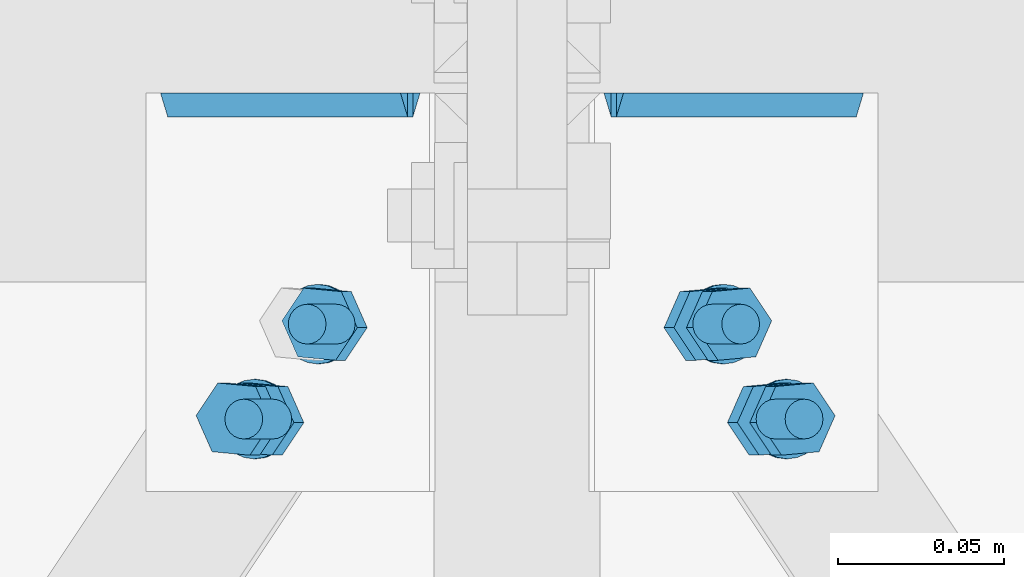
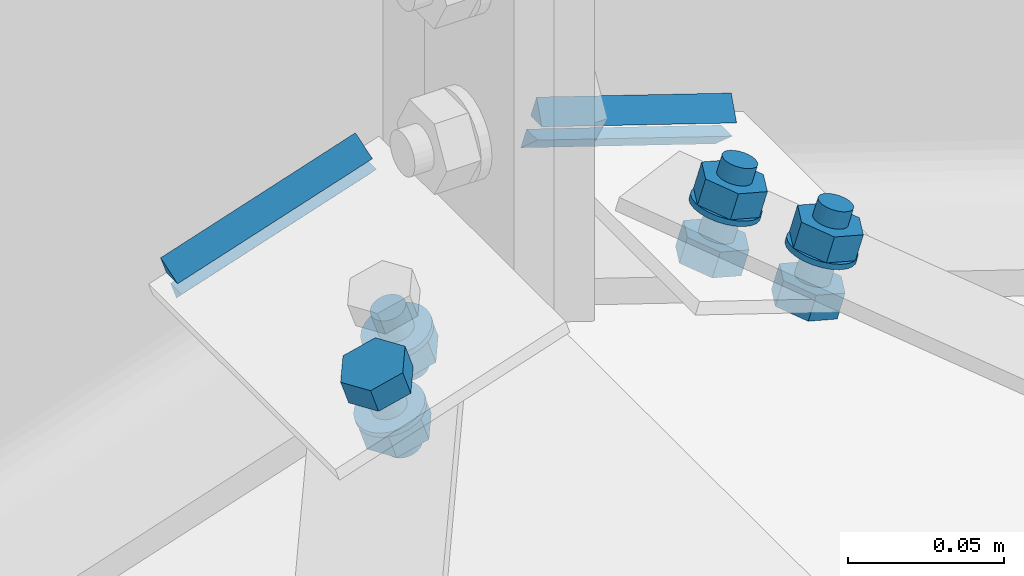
# One storey, part 43 of 53: 15 mechanical fasteners, 4 fasteners.
"""IFC4 building model written with IfcOpenShell, lengths in metres."""

import ifcopenshell
import ifcopenshell.guid

model = None  # the IFC model being written
_history = None  # IfcOwnerHistory: only IFC2X3 demands one
_inside = {}  # id of a spatial element -> (the spatial element, [elements in it])
_under = {}  # id of a project, library or spatial element -> (it, [spatial elements below it])
_declared = {}  # id of a project -> (the project, [libraries it declares])
_typed = {}  # id of a type object -> (the type object, [elements of that type])
_made_of = {}  # id of a material, layer set ... -> (it, [elements and type objects made of it])


def new_model(schema):
    """Start an empty IFC model of exactly this schema.

    Asked for "IFC4X3", IfcOpenShell would pick the latest addendum, in which some entities
    have other attributes; the version numbers below select the first issue.
    IFC2X3 requires an IfcOwnerHistory on every rooted entity: one is made here for all.
    """
    global model, _history
    if schema == "IFC4X3":
        model = ifcopenshell.file(schema_version=(4, 3, 0, 0))
    else:
        model = ifcopenshell.file(schema=schema)
    _inside.clear()
    _under.clear()
    _declared.clear()
    _typed.clear()
    _made_of.clear()
    _history = None
    if model.schema == "IFC2X3":
        org = make("IfcOrganization", Name="unknown")
        user = make(
            "IfcPersonAndOrganization",
            ThePerson=make("IfcPerson", FamilyName="unknown"),
            TheOrganization=org,
        )
        app = make(
            "IfcApplication",
            ApplicationDeveloper=org,
            Version="unknown",
            ApplicationFullName="unknown",
            ApplicationIdentifier="unknown",
        )
        _history = make(
            "IfcOwnerHistory",
            OwningUser=user,
            OwningApplication=app,
            ChangeAction="ADDED",
            CreationDate=0,
        )
    return model


def make(cls, **values):
    """One entity of the class cls with the attributes given. An attribute that is None is left unset."""
    return model.create_entity(
        cls, **{name: value for name, value in values.items() if value is not None}
    )


def rooted(cls, **values):
    """An entity with a GlobalId (a new one), such as an element, a storey or a relation."""
    return make(cls, GlobalId=ifcopenshell.guid.new(), OwnerHistory=_history, **values)


def si_unit(unit_type, name, prefix=None):
    """IfcSIUnit, for example si_unit("LENGTHUNIT", "METRE", prefix="MILLI")."""
    return make("IfcSIUnit", UnitType=unit_type, Prefix=prefix, Name=name)


def assignment(units):
    """IfcUnitAssignment: the units of a project."""
    return None if units is None else make("IfcUnitAssignment", Units=units)


def point(xyz):
    """IfcCartesianPoint."""
    return None if xyz is None else make("IfcCartesianPoint", Coordinates=xyz)


def direction(xyz):
    """IfcDirection."""
    return None if xyz is None else make("IfcDirection", DirectionRatios=xyz)


def frame(location, z_axis=None, x_axis=None):
    """IfcAxis2Placement3D, a coordinate frame: its origin and axes. An axis left out is left unset."""
    return make(
        "IfcAxis2Placement3D",
        Location=point(location),
        Axis=direction(z_axis),
        RefDirection=direction(x_axis),
    )


def origin_with_axes():
    """The frame at (0, 0, 0) with the z axis (0, 0, 1) and the x axis (1, 0, 0) written out."""
    return frame((0.0, 0.0, 0.0), z_axis=(0.0, 0.0, 1.0), x_axis=(1.0, 0.0, 0.0))


def place(relative_to, where):
    """IfcLocalPlacement: puts the frame where relative to a parent placement (None: the world)."""
    return make(
        "IfcLocalPlacement", PlacementRelTo=relative_to, RelativePlacement=where
    )


def context(
    kind, dimensions, precision=None, world=None, true_north=None, identifier=None
):
    """IfcGeometricRepresentationContext, for example the 3D "Model" context."""
    return make(
        "IfcGeometricRepresentationContext",
        ContextIdentifier=identifier,
        ContextType=kind,
        CoordinateSpaceDimension=dimensions,
        Precision=precision,
        WorldCoordinateSystem=world,
        TrueNorth=true_north,
    )


def project(units=None, contexts=None):
    """IfcProject with its units and contexts."""
    return rooted(
        "IfcProject",
        Name="project",
        RepresentationContexts=contexts,
        UnitsInContext=assignment(units),
    )


def spatial(cls, under=None, at=None, **own):
    """A site, building, storey or space (cls), placed at a placement, below another one or the project."""
    s = rooted(cls, ObjectPlacement=at, **own)
    if under is not None:
        _under.setdefault(under.id(), (under, []))[1].append(s)
    return s


def polyline(points):
    """IfcPolyline through the points."""
    return make("IfcPolyline", Points=[point(p) for p in points])


def outline(outer, holes=None, kind="AREA"):
    """IfcArbitraryClosedProfileDef: a profile drawn as a closed curve; with holes, ...WithVoids."""
    if holes is None:
        return make("IfcArbitraryClosedProfileDef", ProfileType=kind, OuterCurve=outer)
    return make(
        "IfcArbitraryProfileDefWithVoids",
        ProfileType=kind,
        OuterCurve=outer,
        InnerCurves=holes,
    )


def extrude(swept, where, along, depth):
    """IfcExtrudedAreaSolid: the profile swept, set in the frame where, extruded along a direction by depth."""
    return make(
        "IfcExtrudedAreaSolid",
        SweptArea=swept,
        Position=where,
        ExtrudedDirection=direction(along),
        Depth=depth,
    )


def shape(context_of_items, identifier, shape_type, items):
    """IfcShapeRepresentation: the items that make up one representation, for example the "Body"."""
    return make(
        "IfcShapeRepresentation",
        ContextOfItems=context_of_items,
        RepresentationIdentifier=identifier,
        RepresentationType=shape_type,
        Items=items,
    )


def made_of(thing, what):
    """Note that an element or type object is made of a material, layer set ...; save() writes the relation."""
    if what is not None:
        _made_of.setdefault(what.id(), (what, []))[1].append(thing)
    return thing


def type_object(cls, material=None, **own):
    """A type object (cls), such as IfcWallType, which elements share."""
    return made_of(rooted(cls, **own), material)


def element(
    cls,
    number,
    at=None,
    inside=None,
    cuts=None,
    type_object=None,
    material=None,
    context=None,
    identifier="Body",
    shape_type=None,
    held_by="IfcProductDefinitionShape",
    body=None,
    shapes=None,
    **own,
):
    """One element of the class cls, such as IfcWall. Its Tag is "e" and its number.

    at: its placement. inside: the storey or other place that contains it. cuts: it is an
    opening in that element (IfcRelVoidsElement). A single representation is given by context,
    identifier, shape_type and body (its items); several are given by shapes. held_by: the class
    of the entity that holds the representations. save() writes the other relations.
    """
    e = rooted(cls, Tag="e%d" % number, ObjectPlacement=at, **own)
    if body is not None:
        shapes = [shape(context, identifier, shape_type, body)]
    if shapes is not None:
        e.Representation = make(held_by, Representations=shapes)
    if inside is not None:
        _inside.setdefault(inside.id(), (inside, []))[1].append(e)
    if cuts is not None:
        rooted(
            "IfcRelVoidsElement", RelatingBuildingElement=cuts, RelatedOpeningElement=e
        )
    if type_object is not None:
        _typed.setdefault(type_object.id(), (type_object, []))[1].append(e)
    return made_of(e, material)


def aggregate(whole, parts):
    """IfcRelAggregates: a whole, such as a stair, and the parts it consists of."""
    return rooted("IfcRelAggregates", RelatingObject=whole, RelatedObjects=parts)


def save(model, path):
    """Write the relations noted so far, then the file.

    IfcRelAggregates (storeys below a building ...), IfcRelContainedInSpatialStructure (elements
    in a storey), IfcRelDefinesByType, IfcRelAssociatesMaterial and IfcRelDeclares: one each for
    every whole, place, type object, material and project.
    """
    for whole, parts in _under.values():
        aggregate(whole, parts)
    for where, things in _inside.values():
        rooted(
            "IfcRelContainedInSpatialStructure",
            RelatedElements=things,
            RelatingStructure=where,
        )
    for kind, things in _typed.values():
        rooted("IfcRelDefinesByType", RelatedObjects=things, RelatingType=kind)
    for what, things in _made_of.values():
        rooted("IfcRelAssociatesMaterial", RelatedObjects=things, RelatingMaterial=what)
    for by, libraries in _declared.values():
        rooted("IfcRelDeclares", RelatingContext=by, RelatedDefinitions=libraries)
    model.write(path)


model = new_model("IFC4")

# Units and contexts
model_context = context("Model", 3, precision=1e-05, world=origin_with_axes())
ifc_project = project(units=[si_unit("LENGTHUNIT", "METRE"), si_unit("AREAUNIT", "SQUARE_METRE"), si_unit("VOLUMEUNIT", "CUBIC_METRE"), si_unit("MASSUNIT", "GRAM", prefix="KILO"), si_unit("TIMEUNIT", "SECOND"), si_unit("PLANEANGLEUNIT", "RADIAN"), si_unit("SOLIDANGLEUNIT", "STERADIAN"), si_unit("THERMODYNAMICTEMPERATUREUNIT", "DEGREE_CELSIUS")], contexts=[model_context])

# Site, building, storey
placement_1 = place(None, origin_with_axes())
site = spatial("IfcSite", under=ifc_project, at=placement_1, Name="Italia", CompositionType="ELEMENT")
building = spatial("IfcBuilding", under=site, at=placement_1, Name="Capannone", CompositionType="ELEMENT")
storey_placement = place(None, frame((0.0, 0.0, 5.550000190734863), z_axis=(0.0, 0.0, 1.0), x_axis=(1.0, 0.0, 0.0)))
storey = spatial("IfcBuildingStorey", under=building, at=storey_placement, Name="Storey 1", CompositionType="ELEMENT", Elevation=5.550000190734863)

# Mechanical fasteners
mechanical_fastener_type_1 = type_object("IfcMechanicalFastenerType", Name="Collegamento -1147_-1119", PredefinedType="BOLT")
placement_2 = place(placement_1, origin_with_axes())
mechanical_fastener_1_placement = place(placement_2, origin_with_axes())
element("IfcMechanicalFastener", 1, at=mechanical_fastener_1_placement, inside=storey, type_object=mechanical_fastener_type_1, Name="Collegamento -1147_-1119", NominalDiameter=0.012, context=model_context, shape_type="SweptSolid", body=[
    extrude(outline(polyline([(0.0, 0.0), (-0.000204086, -0.00155258), (-0.000802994, -0.00300026), (-0.00175667, -0.0042429), (-0.00299931, -0.00519657), (-0.00444698, -0.00579643), (-0.00599957, -0.00600052), (-0.00755215, -0.00579643), (-0.00899982, -0.00519657), (-0.0102425, -0.0042429), (-0.0111961, -0.00300026), (-0.011795, -0.00155258), (-0.0119991, 0.0), (-0.011795, 0.00155258), (-0.0111961, 0.00300026), (-0.0102425, 0.00424194), (-0.00899982, 0.00519657), (-0.00755215, 0.00579548), (-0.00599957, 0.00599957), (-0.00444698, 0.00579548), (-0.00299931, 0.00519657), (-0.00175667, 0.00424194), (-0.000802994, 0.00300026), (-0.000204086, 0.00155258), (0.0, 0.0)])), frame((6.94546, 14.9213, 7.8526), z_axis=(-0.312158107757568, 0.0, 0.950030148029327), x_axis=(0.0, -1.0, 0.0)), (0.0, 0.0, 1.0), 0.028),
])
mechanical_fastener_type_2 = type_object("IfcMechanicalFastenerType", Name="Collegamento -1147_-1119", PredefinedType="BOLT")
mechanical_fastener_2_placement = place(placement_2, origin_with_axes())
element("IfcMechanicalFastener", 2, at=mechanical_fastener_2_placement, inside=storey, type_object=mechanical_fastener_type_2, Name="Collegamento -1147_-1119", NominalDiameter=0.0119997, context=model_context, shape_type="SweptSolid", body=[
    extrude(outline(polyline([(0.0, 0.0), (-0.00982285, 0.0068922), (-0.0207033, 0.00183201), (-0.0217619, -0.0101213), (-0.011939, -0.0170135), (-0.00105762, -0.0119543), (0.0, 0.0)])), frame((6.94827, 14.9164, 7.86026), z_axis=(-0.312127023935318, 0.0, 0.950040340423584), x_axis=(0.0, -1.0, 0.0)), (0.0, 0.0, 1.0), 0.00960008),
])
mechanical_fastener_type_3 = type_object("IfcMechanicalFastenerType", Name="Collegamento -1147_-1119", PredefinedType="BOLT")
mechanical_fastener_3_placement = place(placement_2, origin_with_axes())
element("IfcMechanicalFastener", 3, at=mechanical_fastener_3_placement, inside=storey, type_object=mechanical_fastener_type_3, Name="Collegamento -1147_-1119", NominalDiameter=0.024, context=model_context, shape_type="SweptSolid", body=[
    extrude(outline(polyline([(0.0, 0.0), (-0.000409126, -0.00310612), (-0.00160789, -0.00599957), (-0.00351524, -0.00848484), (-0.00600052, -0.0103922), (-0.00889397, -0.011591), (-0.0120001, -0.0120001), (-0.0151062, -0.011591), (-0.0179996, -0.0103922), (-0.0204849, -0.00848484), (-0.0223923, -0.00599957), (-0.023591, -0.00310612), (-0.0240002, 0.0), (-0.023591, 0.00310612), (-0.0223923, 0.00600052), (-0.0204849, 0.00848579), (-0.0179996, 0.0103931), (-0.0151062, 0.0115919), (-0.0120001, 0.0120001), (-0.00889397, 0.0115919), (-0.00600052, 0.0103931), (-0.00351524, 0.00848579), (-0.00160789, 0.00600052), (-0.000409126, 0.00310612), (0.0, 0.0)])), frame((6.94047, 14.9153, 7.86781), z_axis=(-0.311861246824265, 0.0, 0.95012766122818), x_axis=(0.0, -1.0, 0.0)), (0.0, 0.0, 1.0), 0.00199994),
])
mechanical_fastener_type_4 = type_object("IfcMechanicalFastenerType", Name="Collegamento -1147_-1119", PredefinedType="BOLT")
mechanical_fastener_4_placement = place(placement_2, origin_with_axes())
element("IfcMechanicalFastener", 4, at=mechanical_fastener_4_placement, inside=storey, type_object=mechanical_fastener_type_4, Name="Collegamento -1147_-1119", NominalDiameter=0.0119996, context=model_context, shape_type="SweptSolid", body=[
    extrude(outline(polyline([(0.0, 0.0), (-0.00982285, 0.00689316), (-0.0207043, 0.00183201), (-0.0217619, -0.0101204), (-0.011939, -0.0170145), (-0.00105858, -0.0119534), (0.0, 0.0)])), frame((6.92243, 14.8878, 7.87451), z_axis=(-0.312171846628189, 0.0, 0.950025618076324), x_axis=(0.0, -1.0, 0.0)), (0.0, 0.0, 1.0), 0.00960023),
])
mechanical_fastener_type_5 = type_object("IfcMechanicalFastenerType", Name="Collegamento -1147_-1119", PredefinedType="BOLT")
mechanical_fastener_5_placement = place(placement_2, origin_with_axes())
element("IfcMechanicalFastener", 5, at=mechanical_fastener_5_placement, inside=storey, type_object=mechanical_fastener_type_5, Name="Collegamento -1147_-1119", NominalDiameter=0.012, context=model_context, shape_type="SweptSolid", body=[
    extrude(outline(polyline([(0.0, 0.0), (-0.000204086, -0.00155258), (-0.000802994, -0.00299931), (-0.00175667, -0.0042429), (-0.00299931, -0.00519657), (-0.00444698, -0.00579548), (-0.00599957, -0.00599957), (-0.00755215, -0.00579548), (-0.00899982, -0.00519657), (-0.0102425, -0.0042429), (-0.0111961, -0.00299931), (-0.011795, -0.00155258), (-0.0119991, 0.0), (-0.011795, 0.00155354), (-0.0111961, 0.00300026), (-0.0102425, 0.0042429), (-0.00899982, 0.00519657), (-0.00755215, 0.00579548), (-0.00599957, 0.00600052), (-0.00444698, 0.00579548), (-0.00299931, 0.00519657), (-0.00175667, 0.0042429), (-0.000802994, 0.00300026), (-0.000204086, 0.00155354), (0.0, 0.0)])), frame((6.92636, 14.8927, 7.84633), z_axis=(-0.312158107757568, 0.0, 0.950030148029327), x_axis=(0.0, -1.0, 0.0)), (0.0, 0.0, 1.0), 0.028),
])
mechanical_fastener_type_6 = type_object("IfcMechanicalFastenerType", Name="Collegamento -1147_-1119", PredefinedType="BOLT")
mechanical_fastener_6_placement = place(placement_2, origin_with_axes())
element("IfcMechanicalFastener", 6, at=mechanical_fastener_6_placement, inside=storey, type_object=mechanical_fastener_type_6, Name="Collegamento -1147_-1119", NominalDiameter=0.0119996, context=model_context, shape_type="SweptSolid", body=[
    extrude(outline(polyline([(0.0, 0.0), (-0.00982285, 0.0068922), (-0.0207043, 0.00183201), (-0.0217619, -0.0101213), (-0.011939, -0.0170135), (-0.00105858, -0.0119534), (0.0, 0.0)])), frame((6.92917, 14.8878, 7.85399), z_axis=(-0.312171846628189, 0.0, 0.950025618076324), x_axis=(0.0, -1.0, 0.0)), (0.0, 0.0, 1.0), 0.00960023),
])
mechanical_fastener_type_7 = type_object("IfcMechanicalFastenerType", Name="Collegamento -1147_-1119", PredefinedType="BOLT")
mechanical_fastener_7_placement = place(placement_2, origin_with_axes())
element("IfcMechanicalFastener", 7, at=mechanical_fastener_7_placement, inside=storey, type_object=mechanical_fastener_type_7, Name="Collegamento -1147_-1119", NominalDiameter=0.024, context=model_context, shape_type="SweptSolid", body=[
    extrude(outline(polyline([(0.0, 0.0), (-0.000409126, -0.00310516), (-0.00160789, -0.00599957), (-0.00351524, -0.00848484), (-0.00600052, -0.0103922), (-0.00889397, -0.011591), (-0.0120001, -0.0120001), (-0.0151062, -0.011591), (-0.0179996, -0.0103922), (-0.0204849, -0.00848484), (-0.0223923, -0.00599957), (-0.023591, -0.00310516), (-0.0240002, 0.0), (-0.023591, 0.00310612), (-0.0223923, 0.00599957), (-0.0204849, 0.00848484), (-0.0179996, 0.0103922), (-0.0151062, 0.011591), (-0.0120001, 0.0120001), (-0.00889397, 0.011591), (-0.00600052, 0.0103922), (-0.00351524, 0.00848484), (-0.00160789, 0.00599957), (-0.000409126, 0.00310612), (0.0, 0.0)])), frame((6.92137, 14.8867, 7.86153), z_axis=(-0.312362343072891, 0.0, 0.94996303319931), x_axis=(0.0, -1.0, 0.0)), (0.0, 0.0, 1.0), 0.00199978),
])

# Fasteners
fastener_type_1 = type_object("IfcFastenerType", Name="Collegamento -1147_-1119", PredefinedType="WELD")
fastener_1_placement = place(placement_2, origin_with_axes())
element("IfcFastener", 8, at=fastener_1_placement, inside=storey, type_object=fastener_type_1, Name="Collegamento -1147_-1119", context=model_context, shape_type="SweptSolid", body=[
    extrude(outline(polyline([(0.0, 0.0), (-0.00717258, 0.00695896), (0.0, 0.00695896), (0.0, 0.0)])), frame((6.89842, 14.9969, 7.85409), z_axis=(0.950032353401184, 0.0, 0.312151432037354), x_axis=(0.0, 1.0, 0.0)), (0.0, 0.0, 1.0), 0.0761011),
])
fastener_type_2 = type_object("IfcFastenerType", Name="Collegamento -1147_-1119", PredefinedType="WELD")
fastener_2_placement = place(placement_2, origin_with_axes())
element("IfcFastener", 9, at=fastener_2_placement, inside=storey, type_object=fastener_type_2, Name="Collegamento -1147_-1119", context=model_context, shape_type="SweptSolid", body=[
    extrude(outline(polyline([(0.0, 0.0), (0.00717258, -0.00695801), (0.0, -0.00695801), (0.0, 0.0)])), frame((6.96485, 14.9969, 7.89572), z_axis=(-0.950031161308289, 0.0, -0.312155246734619), x_axis=(0.0, -1.0, 0.0)), (0.0, 0.0, 1.0), 0.0761017),
])

# Mechanical fasteners
mechanical_fastener_type_8 = type_object("IfcMechanicalFastenerType", Name="Collegamento -1147_-1120", PredefinedType="BOLT")
mechanical_fastener_8_placement = place(placement_2, origin_with_axes())
element("IfcMechanicalFastener", 10, at=mechanical_fastener_8_placement, inside=storey, type_object=mechanical_fastener_type_8, Name="Collegamento -1147_-1120", NominalDiameter=0.0119997, context=model_context, shape_type="SweptSolid", body=[
    extrude(outline(polyline([(0.0, 0.0), (-0.00982285, 0.0068922), (-0.0207043, 0.00183201), (-0.0217619, -0.0101213), (-0.011939, -0.0170145), (-0.00105858, -0.0119538), (0.0, 0.0)])), frame((7.05379, 14.9164, 7.86654), z_axis=(-0.312127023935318, 0.0, -0.950040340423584), x_axis=(0.0, -1.0, 0.0)), (0.0, 0.0, 1.0), 0.00960008),
])
mechanical_fastener_type_9 = type_object("IfcMechanicalFastenerType", Name="Collegamento -1147_-1120", PredefinedType="BOLT")
mechanical_fastener_9_placement = place(placement_2, origin_with_axes())
element("IfcMechanicalFastener", 11, at=mechanical_fastener_9_placement, inside=storey, type_object=mechanical_fastener_type_9, Name="Collegamento -1147_-1120", NominalDiameter=0.012, context=model_context, shape_type="SweptSolid", body=[
    extrude(outline(polyline([(0.0, 0.0), (-0.000204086, -0.00155306), (-0.000802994, -0.00299978), (-0.00175667, -0.00424242), (-0.00299931, -0.00519609), (-0.00444698, -0.00579596), (-0.00599957, -0.00599957), (-0.00755215, -0.00579596), (-0.00899982, -0.00519609), (-0.0102425, -0.00424242), (-0.0111961, -0.00299978), (-0.011795, -0.00155306), (-0.0119991, 0.0), (-0.011795, 0.00155306), (-0.0111961, 0.00300026), (-0.0102425, 0.00424242), (-0.00899982, 0.00519609), (-0.00755215, 0.00579548), (-0.00599957, 0.00600004), (-0.00444698, 0.00579548), (-0.00299931, 0.00519609), (-0.00175667, 0.00424242), (-0.000802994, 0.00300026), (-0.000204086, 0.00155306), (0.0, 0.0)])), frame((7.06734, 14.9213, 7.89156), z_axis=(-0.312142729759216, 0.0, -0.950035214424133), x_axis=(0.0, -1.0, 0.0)), (0.0, 0.0, 1.0), 0.0279998),
])
mechanical_fastener_type_10 = type_object("IfcMechanicalFastenerType", Name="Collegamento -1147_-1120", PredefinedType="BOLT")
mechanical_fastener_10_placement = place(placement_2, origin_with_axes())
element("IfcMechanicalFastener", 12, at=mechanical_fastener_10_placement, inside=storey, type_object=mechanical_fastener_type_10, Name="Collegamento -1147_-1120", NominalDiameter=0.0119997, context=model_context, shape_type="SweptSolid", body=[
    extrude(outline(polyline([(0.0, 0.0), (-0.00982285, 0.00689268), (-0.0207043, 0.00183296), (-0.0217619, -0.0101204), (-0.011939, -0.0170135), (-0.00105858, -0.0119534), (0.0, 0.0)])), frame((7.06053, 14.9164, 7.88706), z_axis=(-0.312127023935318, 0.0, -0.950040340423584), x_axis=(0.0, -1.0, 0.0)), (0.0, 0.0, 1.0), 0.00960008),
])
mechanical_fastener_type_11 = type_object("IfcMechanicalFastenerType", Name="Collegamento -1147_-1120", PredefinedType="BOLT")
mechanical_fastener_11_placement = place(placement_2, origin_with_axes())
element("IfcMechanicalFastener", 13, at=mechanical_fastener_11_placement, inside=storey, type_object=mechanical_fastener_type_11, Name="Collegamento -1147_-1120", NominalDiameter=0.024, context=model_context, shape_type="SweptSolid", body=[
    extrude(outline(polyline([(0.0, 0.0), (-0.000409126, -0.00310516), (-0.00160789, -0.00599957), (-0.00351524, -0.00848484), (-0.00600052, -0.0103917), (-0.00889397, -0.011591), (-0.0120001, -0.0119991), (-0.0151062, -0.011591), (-0.0179996, -0.0103917), (-0.0204849, -0.00848484), (-0.0223923, -0.00599957), (-0.023591, -0.00310516), (-0.0240002, 0.0), (-0.023591, 0.00310659), (-0.0223923, 0.00600052), (-0.0204849, 0.00848579), (-0.0179996, 0.0103931), (-0.0151062, 0.0115919), (-0.0120001, 0.0120001), (-0.00889397, 0.0115919), (-0.00600052, 0.0103931), (-0.00351524, 0.00848579), (-0.00160789, 0.00600052), (-0.000409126, 0.00310659), (0.0, 0.0)])), frame((7.06234, 14.9153, 7.87636), z_axis=(-0.311790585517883, 0.0, -0.950150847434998), x_axis=(0.0, -1.0, 0.0)), (0.0, 0.0, 1.0), 0.00200039),
])
mechanical_fastener_type_12 = type_object("IfcMechanicalFastenerType", Name="Collegamento -1147_-1120", PredefinedType="BOLT")
mechanical_fastener_12_placement = place(placement_2, origin_with_axes())
element("IfcMechanicalFastener", 14, at=mechanical_fastener_12_placement, inside=storey, type_object=mechanical_fastener_type_12, Name="Collegamento -1147_-1120", NominalDiameter=0.0119994, context=model_context, shape_type="SweptSolid", body=[
    extrude(outline(polyline([(0.0, 0.0), (-0.00982285, 0.00689268), (-0.0207033, 0.00183344), (-0.0217619, -0.0101209), (-0.011939, -0.0170135), (-0.00105762, -0.0119529), (0.0, 0.0)])), frame((7.07289, 14.8878, 7.86026), z_axis=(-0.312171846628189, 0.0, -0.950025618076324), x_axis=(0.0, -1.0, 0.0)), (0.0, 0.0, 1.0), 0.00960023),
])
mechanical_fastener_type_13 = type_object("IfcMechanicalFastenerType", Name="Collegamento -1147_-1120", PredefinedType="BOLT")
mechanical_fastener_13_placement = place(placement_2, origin_with_axes())
element("IfcMechanicalFastener", 15, at=mechanical_fastener_13_placement, inside=storey, type_object=mechanical_fastener_type_13, Name="Collegamento -1147_-1120", NominalDiameter=0.012, context=model_context, shape_type="SweptSolid", body=[
    extrude(outline(polyline([(0.0, 0.0), (-0.000204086, -0.00155258), (-0.000802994, -0.00299978), (-0.00175667, -0.0042429), (-0.00299931, -0.00519657), (-0.00444698, -0.00579548), (-0.00599957, -0.00600004), (-0.00755215, -0.00579548), (-0.00899982, -0.00519657), (-0.0102425, -0.0042429), (-0.0111961, -0.00299978), (-0.011795, -0.00155258), (-0.0119991, 0.0), (-0.011795, 0.00155258), (-0.0111961, 0.00300026), (-0.0102425, 0.0042429), (-0.00899982, 0.00519657), (-0.00755215, 0.00579548), (-0.00599957, 0.00600052), (-0.00444698, 0.00579548), (-0.00299931, 0.00519657), (-0.00175667, 0.0042429), (-0.000802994, 0.00300026), (-0.000204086, 0.00155258), (0.0, 0.0)])), frame((7.08644, 14.8927, 7.88528), z_axis=(-0.312158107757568, 0.0, -0.950030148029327), x_axis=(0.0, -1.0, 0.0)), (0.0, 0.0, 1.0), 0.028),
])
mechanical_fastener_type_14 = type_object("IfcMechanicalFastenerType", Name="Collegamento -1147_-1120", PredefinedType="BOLT")
mechanical_fastener_14_placement = place(placement_2, origin_with_axes())
element("IfcMechanicalFastener", 16, at=mechanical_fastener_14_placement, inside=storey, type_object=mechanical_fastener_type_14, Name="Collegamento -1147_-1120", NominalDiameter=0.0119996, context=model_context, shape_type="SweptSolid", body=[
    extrude(outline(polyline([(0.0, 0.0), (-0.00982285, 0.00689316), (-0.0207033, 0.00183296), (-0.0217619, -0.0101204), (-0.011939, -0.0170135), (-0.00105762, -0.0119534), (0.0, 0.0)])), frame((7.07963, 14.8878, 7.88078), z_axis=(-0.312171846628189, 0.0, -0.950025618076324), x_axis=(0.0, -1.0, 0.0)), (0.0, 0.0, 1.0), 0.00960023),
])
mechanical_fastener_type_15 = type_object("IfcMechanicalFastenerType", Name="Collegamento -1147_-1120", PredefinedType="BOLT")
mechanical_fastener_15_placement = place(placement_2, origin_with_axes())
element("IfcMechanicalFastener", 17, at=mechanical_fastener_15_placement, inside=storey, type_object=mechanical_fastener_type_15, Name="Collegamento -1147_-1120", NominalDiameter=0.024, context=model_context, shape_type="SweptSolid", body=[
    extrude(outline(polyline([(0.0, 0.0), (-0.000409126, -0.00310612), (-0.00160789, -0.00600004), (-0.00351524, -0.00848532), (-0.00600052, -0.0103927), (-0.00889397, -0.0115914), (-0.0120001, -0.0119996), (-0.0151062, -0.0115914), (-0.0179996, -0.0103927), (-0.0204849, -0.00848532), (-0.0223923, -0.00600004), (-0.023591, -0.00310612), (-0.0240002, 0.0), (-0.023591, 0.00310564), (-0.0223923, 0.00599957), (-0.0204849, 0.00848532), (-0.0179996, 0.0103917), (-0.0151062, 0.0115905), (-0.0120001, 0.0119996), (-0.00889397, 0.0115905), (-0.00600052, 0.0103917), (-0.00351524, 0.00848532), (-0.00160789, 0.00599957), (-0.000409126, 0.00310564), (0.0, 0.0)])), frame((7.08144, 14.8867, 7.87008), z_axis=(-0.311931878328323, 0.0, -0.950104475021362), x_axis=(0.0, -1.0, 0.0)), (0.0, 0.0, 1.0), 0.00199948),
])

# Fasteners
fastener_type_3 = type_object("IfcFastenerType", Name="Collegamento -1147_-1120", PredefinedType="WELD")
fastener_3_placement = place(placement_2, origin_with_axes())
element("IfcFastener", 18, at=fastener_3_placement, inside=storey, type_object=fastener_type_3, Name="Collegamento -1147_-1120", context=model_context, shape_type="SweptSolid", body=[
    extrude(outline(polyline([(0.0, 0.0), (0.00717258, -0.00695801), (0.0, -0.00695801), (0.0, 0.0)])), frame((7.10433, 14.9969, 7.86246), z_axis=(-0.950031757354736, 0.0, 0.312153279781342), x_axis=(0.0, -1.0, 0.0)), (0.0, 0.0, 1.0), 0.0761007),
])
fastener_type_4 = type_object("IfcFastenerType", Name="Collegamento -1147_-1120", PredefinedType="WELD")
fastener_4_placement = place(placement_2, origin_with_axes())
element("IfcFastener", 19, at=fastener_4_placement, inside=storey, type_object=fastener_type_4, Name="Collegamento -1147_-1120", context=model_context, shape_type="SweptSolid", body=[
    extrude(outline(polyline([(0.0, 0.0), (-0.00717258, 0.00695896), (0.0, 0.00695896), (0.0, 0.0)])), frame((7.02616, 14.9969, 7.86834), z_axis=(0.950031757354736, 0.0, -0.312153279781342), x_axis=(0.0, 1.0, 0.0)), (0.0, 0.0, 1.0), 0.0761007),
])

save(model, "model.ifc")
